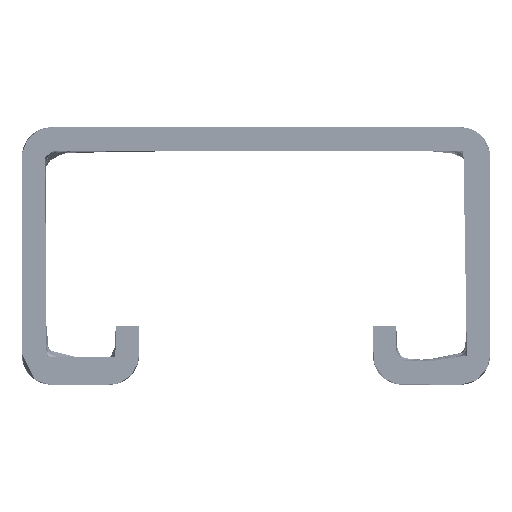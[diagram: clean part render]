
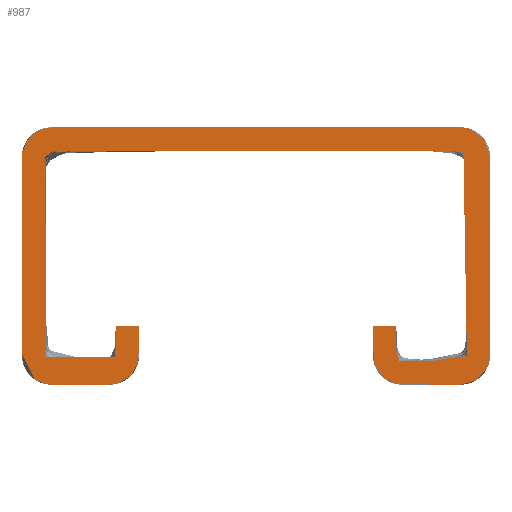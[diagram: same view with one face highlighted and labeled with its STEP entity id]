
A CAD part, front view. The second image highlights one B-rep face of the part: STEP entity #987.
In plain terms, the highlighted planar face has unit normal (0, -1, 0).
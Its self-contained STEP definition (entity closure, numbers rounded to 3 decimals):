
#12=PLANE($,#4207);
#987=ADVANCED_FACE($,(#1279),#12,.T.);
#1279=FACE_OUTER_BOUND($,#1571,.T.);
#1571=EDGE_LOOP($,(#2324,#2325,#2326,#2327));
#2324=ORIENTED_EDGE($,*,*,#2940,.T.);
#2325=ORIENTED_EDGE($,*,*,#2943,.T.);
#2326=ORIENTED_EDGE($,*,*,#2942,.T.);
#2327=ORIENTED_EDGE($,*,*,#2941,.T.);
#2940=EDGE_CURVE($,#3416,#3419,#4018,.T.);
#2941=EDGE_CURVE($,#3417,#3416,#4019,.T.);
#2942=EDGE_CURVE($,#3418,#3417,#4020,.T.);
#2943=EDGE_CURVE($,#3419,#3418,#4021,.T.);
#3416=VERTEX_POINT($,#13250);
#3417=VERTEX_POINT($,#13251);
#3418=VERTEX_POINT($,#13252);
#3419=VERTEX_POINT($,#13253);
#4018=(
BOUNDED_CURVE()
B_SPLINE_CURVE(2,(#13189,#13190,#13191),.UNSPECIFIED.,.F.,.F.)
B_SPLINE_CURVE_WITH_KNOTS((3,3),(0.,2.),.UNSPECIFIED.)
CURVE()
GEOMETRIC_REPRESENTATION_ITEM()
RATIONAL_B_SPLINE_CURVE((1.,1.,1.))
REPRESENTATION_ITEM($)
);
#4019=(
BOUNDED_CURVE()
B_SPLINE_CURVE(2,(#13192,#13193,#13194,#13195,#13196,#13197,#13198,#13199,
#13200,#13201,#13202,#13203,#13204,#13205,#13206,#13207,#13208,#13209,#13210,
#13211,#13212,#13213,#13214,#13215,#13216,#13217,#13218),.UNSPECIFIED.,.F.,
.F.)
B_SPLINE_CURVE_WITH_KNOTS((3,2,2,2,2,2,2,2,2,2,2,2,2,3),(118.712,
121.212,121.998,126.998,127.783,157.783,
158.569,193.569,194.354,224.354,225.139,
230.139,230.925,233.425),.UNSPECIFIED.)
CURVE()
GEOMETRIC_REPRESENTATION_ITEM()
RATIONAL_B_SPLINE_CURVE((1.,1.,1.,0.707,1.,1.,1.,0.707,
1.,1.,1.,0.707,1.,1.,1.,0.707,1.,1.,1.,0.707,
1.,1.,1.,0.707,1.,1.,1.))
REPRESENTATION_ITEM($)
);
#4020=(
BOUNDED_CURVE()
B_SPLINE_CURVE(2,(#13219,#13220,#13221),.UNSPECIFIED.,.F.,.F.)
B_SPLINE_CURVE_WITH_KNOTS((3,3),(116.712,118.712),.UNSPECIFIED.)
CURVE()
GEOMETRIC_REPRESENTATION_ITEM()
RATIONAL_B_SPLINE_CURVE((1.,1.,1.))
REPRESENTATION_ITEM($)
);
#4021=(
BOUNDED_CURVE()
B_SPLINE_CURVE(2,(#13222,#13223,#13224,#13225,#13226,#13227,#13228,#13229,
#13230,#13231,#13232,#13233,#13234,#13235,#13236,#13237,#13238,#13239,#13240,
#13241,#13242,#13243,#13244,#13245,#13246,#13247,#13248),.UNSPECIFIED.,.F.,
.F.)
B_SPLINE_CURVE_WITH_KNOTS((3,2,2,2,2,2,2,2,2,2,2,2,2,3),(2.,4.5,5.285,
10.285,11.071,41.071,41.856,76.856,
77.642,107.642,108.427,113.427,114.212,
116.712),.UNSPECIFIED.)
CURVE()
GEOMETRIC_REPRESENTATION_ITEM()
RATIONAL_B_SPLINE_CURVE((1.,1.,1.,0.707,1.,1.,1.,0.707,
1.,1.,1.,0.707,1.,1.,1.,0.707,1.,1.,1.,0.707,
1.,1.,1.,0.707,1.,1.,1.))
REPRESENTATION_ITEM($)
);
#4207=AXIS2_PLACEMENT_3D($,#13249,#4212,$);
#4212=DIRECTION($,(0.,-1.,0.));
#13189=CARTESIAN_POINT($,(-10.,0.,5.));
#13190=CARTESIAN_POINT($,(-11.,0.,5.));
#13191=CARTESIAN_POINT($,(-12.,0.,5.));
#13192=CARTESIAN_POINT($,(10.,0.,5.));
#13193=CARTESIAN_POINT($,(10.,0.,3.75));
#13194=CARTESIAN_POINT($,(10.,0.,2.5));
#13195=CARTESIAN_POINT($,(10.,0.,0.));
#13196=CARTESIAN_POINT($,(12.5,0.,0.));
#13197=CARTESIAN_POINT($,(15.,0.,0.));
#13198=CARTESIAN_POINT($,(17.5,0.,0.));
#13199=CARTESIAN_POINT($,(20.,0.,0.));
#13200=CARTESIAN_POINT($,(20.,0.,2.5));
#13201=CARTESIAN_POINT($,(20.,0.,4.5));
#13202=CARTESIAN_POINT($,(20.,0.,19.5));
#13203=CARTESIAN_POINT($,(20.,0.,22.));
#13204=CARTESIAN_POINT($,(17.5,0.,22.));
#13205=CARTESIAN_POINT($,(0.,0.,22.));
#13206=CARTESIAN_POINT($,(-17.5,0.,22.));
#13207=CARTESIAN_POINT($,(-20.,0.,22.));
#13208=CARTESIAN_POINT($,(-20.,0.,19.5));
#13209=CARTESIAN_POINT($,(-20.,0.,4.5));
#13210=CARTESIAN_POINT($,(-20.,0.,2.5));
#13211=CARTESIAN_POINT($,(-20.,0.,0.));
#13212=CARTESIAN_POINT($,(-17.5,0.,0.));
#13213=CARTESIAN_POINT($,(-15.,0.,0.));
#13214=CARTESIAN_POINT($,(-12.5,0.,0.));
#13215=CARTESIAN_POINT($,(-10.,0.,0.));
#13216=CARTESIAN_POINT($,(-10.,0.,2.5));
#13217=CARTESIAN_POINT($,(-10.,0.,3.75));
#13218=CARTESIAN_POINT($,(-10.,0.,5.));
#13219=CARTESIAN_POINT($,(12.,0.,5.));
#13220=CARTESIAN_POINT($,(11.,0.,5.));
#13221=CARTESIAN_POINT($,(10.,0.,5.));
#13222=CARTESIAN_POINT($,(-12.,0.,5.));
#13223=CARTESIAN_POINT($,(-12.,0.,3.75));
#13224=CARTESIAN_POINT($,(-12.,0.,2.5));
#13225=CARTESIAN_POINT($,(-12.,0.,2.));
#13226=CARTESIAN_POINT($,(-12.5,0.,2.));
#13227=CARTESIAN_POINT($,(-15.,0.,2.));
#13228=CARTESIAN_POINT($,(-17.5,0.,2.));
#13229=CARTESIAN_POINT($,(-18.,0.,2.));
#13230=CARTESIAN_POINT($,(-18.,0.,2.5));
#13231=CARTESIAN_POINT($,(-18.,0.,4.5));
#13232=CARTESIAN_POINT($,(-18.,0.,19.5));
#13233=CARTESIAN_POINT($,(-18.,0.,20.));
#13234=CARTESIAN_POINT($,(-17.5,0.,20.));
#13235=CARTESIAN_POINT($,(0.,0.,20.));
#13236=CARTESIAN_POINT($,(17.5,0.,20.));
#13237=CARTESIAN_POINT($,(18.,0.,20.));
#13238=CARTESIAN_POINT($,(18.,0.,19.5));
#13239=CARTESIAN_POINT($,(18.,0.,4.5));
#13240=CARTESIAN_POINT($,(18.,0.,2.5));
#13241=CARTESIAN_POINT($,(18.,0.,2.));
#13242=CARTESIAN_POINT($,(17.5,0.,2.));
#13243=CARTESIAN_POINT($,(15.,0.,2.));
#13244=CARTESIAN_POINT($,(12.5,0.,2.));
#13245=CARTESIAN_POINT($,(12.,0.,2.));
#13246=CARTESIAN_POINT($,(12.,0.,2.5));
#13247=CARTESIAN_POINT($,(12.,0.,3.75));
#13248=CARTESIAN_POINT($,(12.,0.,5.));
#13249=CARTESIAN_POINT($,(20.,0.,22.));
#13250=CARTESIAN_POINT($,(-10.,0.,5.));
#13251=CARTESIAN_POINT($,(10.,0.,5.));
#13252=CARTESIAN_POINT($,(12.,0.,5.));
#13253=CARTESIAN_POINT($,(-12.,0.,5.));
